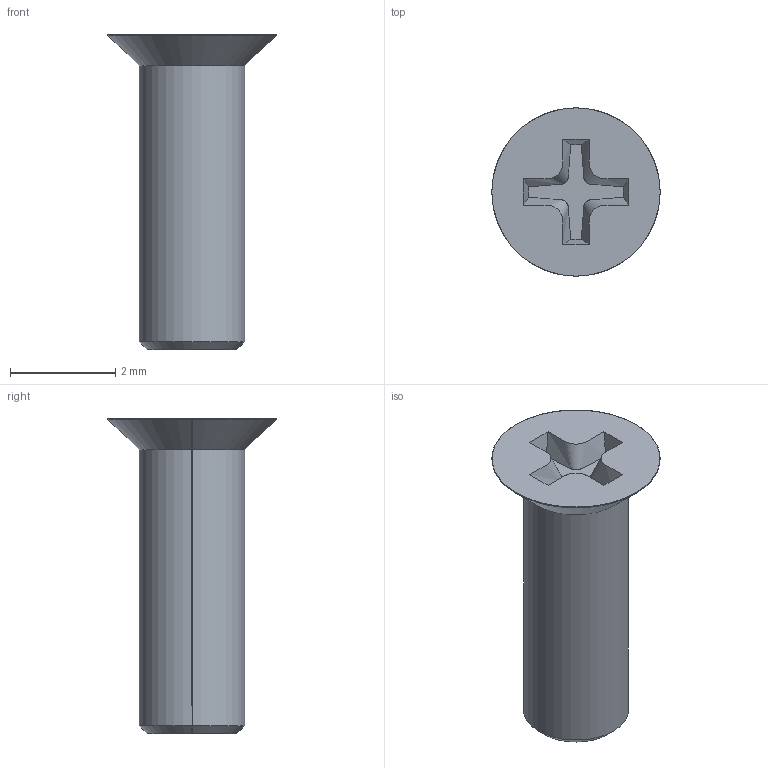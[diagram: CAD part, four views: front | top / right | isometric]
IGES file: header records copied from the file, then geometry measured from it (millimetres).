
Start section: SolidWorks IGES file using analytic representation for surfaces
Bounding box: 3.2 x 3.2 x 6 mm (x, y, z)
Surface area: 53.9 mm2 (no closed solid volume)
Topology: 0 solids, 0 shells, 19 faces, 180 edges, 180 vertices
Faces by surface type: bspline 11, revolution 8
